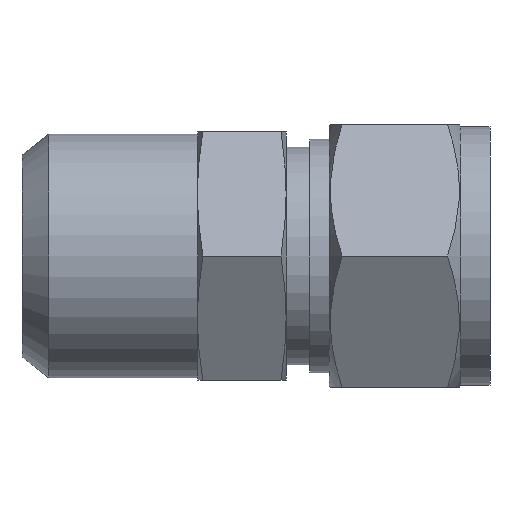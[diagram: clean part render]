
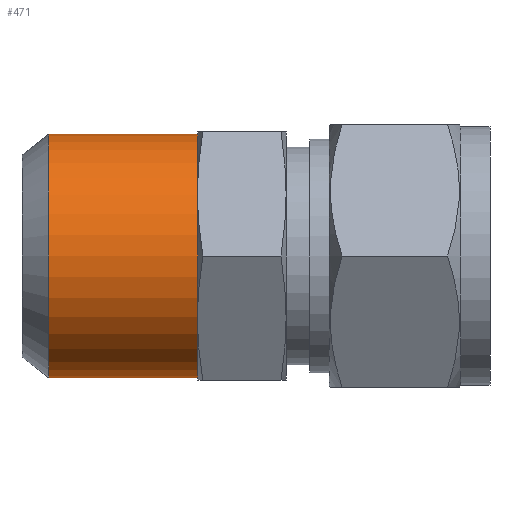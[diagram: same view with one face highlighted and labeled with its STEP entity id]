
A CAD part, front view. The second image highlights one B-rep face of the part: STEP entity #471.
In plain terms, the highlighted cylindrical face has radius 13.25 mm (diameter 26.5 mm), a partial arc.
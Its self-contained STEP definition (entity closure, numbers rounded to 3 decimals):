
#468 = ORIENTED_EDGE ( 'NONE', *, *, #502, .F. ) ;
#469 = ORIENTED_EDGE ( 'NONE', *, *, #650, .F. ) ;
#471 = ADVANCED_FACE ( 'NONE', ( #778 ), #774, .T. ) ;
#473 = EDGE_LOOP ( 'NONE', ( #468, #469, #598, #596 ) ) ;
#502 = EDGE_CURVE ( 'NONE', #518, #671, #835, .T. ) ;
#518 = VERTEX_POINT ( 'NONE', #852 ) ;
#595 = EDGE_CURVE ( 'NONE', #635, #671, #1014, .T. ) ;
#596 = ORIENTED_EDGE ( 'NONE', *, *, #595, .T. ) ;
#598 = ORIENTED_EDGE ( 'NONE', *, *, #646, .T. ) ;
#635 = VERTEX_POINT ( 'NONE', #1077 ) ;
#646 = EDGE_CURVE ( 'NONE', #669, #635, #1065, .T. ) ;
#650 = EDGE_CURVE ( 'NONE', #669, #518, #1052, .T. ) ;
#669 = VERTEX_POINT ( 'NONE', #1133 ) ;
#671 = VERTEX_POINT ( 'NONE', #1121 ) ;
#769 = DIRECTION ( 'NONE',  ( 0., 0., -1. ) ) ;
#770 = DIRECTION ( 'NONE',  ( 1., 0., 0. ) ) ;
#771 = CARTESIAN_POINT ( 'NONE',  ( -19.1, 0., 0. ) ) ;
#772 = AXIS2_PLACEMENT_3D ( 'NONE', #771, #770, #769 ) ;
#774 = CYLINDRICAL_SURFACE ( 'NONE', #772, 13.25 ) ;
#778 = FACE_OUTER_BOUND ( 'NONE', #473, .T. ) ;
#832 = DIRECTION ( 'NONE',  ( 1., 0., 0. ) ) ;
#833 = VECTOR ( 'NONE', #832, 1000. ) ;
#834 = CARTESIAN_POINT ( 'NONE',  ( -19.1, 0., 13.25 ) ) ;
#835 = LINE ( 'NONE', #834, #833 ) ;
#852 = CARTESIAN_POINT ( 'NONE',  ( -16.168, 0., 13.25 ) ) ;
#955 = CARTESIAN_POINT ( 'NONE',  ( 0., 0., 0. ) ) ;
#1011 = DIRECTION ( 'NONE',  ( 0., 0., -1. ) ) ;
#1012 = DIRECTION ( 'NONE',  ( -1., 0., 0. ) ) ;
#1013 = AXIS2_PLACEMENT_3D ( 'NONE', #955, #1012, #1011 ) ;
#1014 = CIRCLE ( 'NONE', #1013, 13.25 ) ;
#1048 = DIRECTION ( 'NONE',  ( 0., 0., -1. ) ) ;
#1049 = DIRECTION ( 'NONE',  ( -1., 0., 0. ) ) ;
#1050 = CARTESIAN_POINT ( 'NONE',  ( -16.168, 0., 0. ) ) ;
#1051 = AXIS2_PLACEMENT_3D ( 'NONE', #1050, #1049, #1048 ) ;
#1052 = CIRCLE ( 'NONE', #1051, 13.25 ) ;
#1057 = DIRECTION ( 'NONE',  ( 1., 0., 0. ) ) ;
#1058 = VECTOR ( 'NONE', #1057, 1000. ) ;
#1059 = CARTESIAN_POINT ( 'NONE',  ( -19.1, 0., -13.25 ) ) ;
#1065 = LINE ( 'NONE', #1059, #1058 ) ;
#1077 = CARTESIAN_POINT ( 'NONE',  ( 0., 0., -13.25 ) ) ;
#1121 = CARTESIAN_POINT ( 'NONE',  ( 0., 0., 13.25 ) ) ;
#1133 = CARTESIAN_POINT ( 'NONE',  ( -16.168, 0., -13.25 ) ) ;
